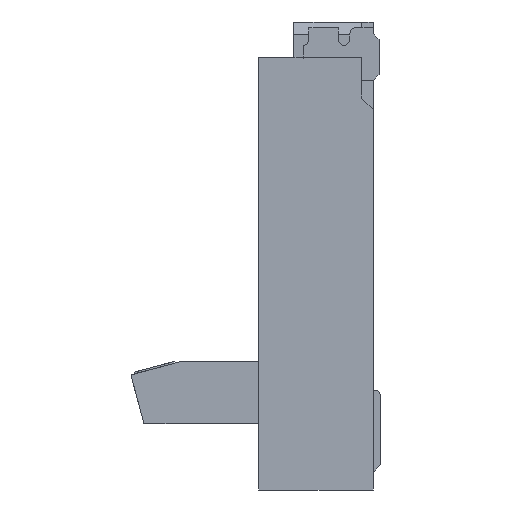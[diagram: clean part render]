
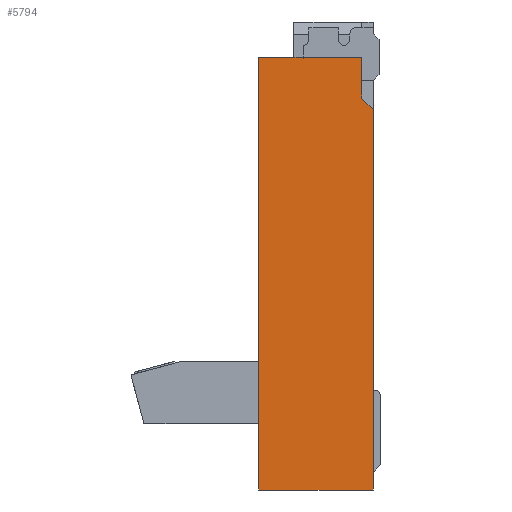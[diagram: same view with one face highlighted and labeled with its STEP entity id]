
A CAD part, left-side view. The second image highlights one B-rep face of the part: STEP entity #5794.
In plain terms, the highlighted planar face has unit normal (-1, 0, 0).
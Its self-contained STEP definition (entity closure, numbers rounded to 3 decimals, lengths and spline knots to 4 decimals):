
#1122 = EDGE_CURVE ( 'NONE', #14856, #43183, #22139, .T. ) ;
#4023 = VECTOR ( 'NONE', #25622, 1000. ) ;
#5794 = ADVANCED_FACE ( 'NONE', ( #37091 ), #7711, .T. ) ;
#7656 = DIRECTION ( 'NONE',  ( 0., 0., -1. ) ) ;
#7711 = PLANE ( 'NONE',  #53958 ) ;
#8023 = DIRECTION ( 'NONE',  ( 0., 0.707, 0.707 ) ) ;
#14752 = CARTESIAN_POINT ( 'NONE',  ( 0., 0.98, 0.3 ) ) ;
#14856 = VERTEX_POINT ( 'NONE', #39128 ) ;
#16910 = LINE ( 'NONE', #93867, #72752 ) ;
#18987 = VERTEX_POINT ( 'NONE', #29177 ) ;
#21086 = ORIENTED_EDGE ( 'NONE', *, *, #1122, .F. ) ;
#22139 = LINE ( 'NONE', #51270, #60867 ) ;
#22171 = VERTEX_POINT ( 'NONE', #65552 ) ;
#23322 = CARTESIAN_POINT ( 'NONE',  ( 0., 0., -3.7 ) ) ;
#25622 = DIRECTION ( 'NONE',  ( 0., -1., 0. ) ) ;
#25915 = EDGE_LOOP ( 'NONE', ( #21086, #45466, #56415, #57041, #64156, #32306 ) ) ;
#26055 = EDGE_CURVE ( 'NONE', #29749, #87139, #16910, .T. ) ;
#27577 = EDGE_CURVE ( 'NONE', #18987, #14856, #66725, .T. ) ;
#27638 = VECTOR ( 'NONE', #74277, 1000. ) ;
#29162 = VECTOR ( 'NONE', #8023, 1000. ) ;
#29177 = CARTESIAN_POINT ( 'NONE',  ( 0., 0.98, 0. ) ) ;
#29730 = DIRECTION ( 'NONE',  ( -1., 0., 0. ) ) ;
#29749 = VERTEX_POINT ( 'NONE', #37043 ) ;
#29830 = EDGE_CURVE ( 'NONE', #87139, #22171, #44683, .T. ) ;
#32306 = ORIENTED_EDGE ( 'NONE', *, *, #68026, .T. ) ;
#37043 = CARTESIAN_POINT ( 'NONE',  ( 0., 0., -0.45 ) ) ;
#37091 = FACE_OUTER_BOUND ( 'NONE', #25915, .T. ) ;
#39128 = CARTESIAN_POINT ( 'NONE',  ( 0., 0.1, 0. ) ) ;
#41940 = CARTESIAN_POINT ( 'NONE',  ( 0., 0.98, 0.3 ) ) ;
#43183 = VERTEX_POINT ( 'NONE', #82297 ) ;
#44683 = LINE ( 'NONE', #23322, #27638 ) ;
#45466 = ORIENTED_EDGE ( 'NONE', *, *, #27577, .F. ) ;
#47221 = EDGE_CURVE ( 'NONE', #22171, #18987, #63536, .T. ) ;
#50751 = CARTESIAN_POINT ( 'NONE',  ( 0., 0., -3.7 ) ) ;
#51270 = CARTESIAN_POINT ( 'NONE',  ( 0., 0.1, 0.623 ) ) ;
#53958 = AXIS2_PLACEMENT_3D ( 'NONE', #14752, #29730, #80710 ) ;
#56225 = DIRECTION ( 'NONE',  ( 0., 0., 1. ) ) ;
#56415 = ORIENTED_EDGE ( 'NONE', *, *, #47221, .F. ) ;
#57041 = ORIENTED_EDGE ( 'NONE', *, *, #29830, .F. ) ;
#60867 = VECTOR ( 'NONE', #7656, 1000. ) ;
#61240 = VECTOR ( 'NONE', #56225, 1000. ) ;
#63536 = LINE ( 'NONE', #41940, #61240 ) ;
#64156 = ORIENTED_EDGE ( 'NONE', *, *, #26055, .F. ) ;
#65552 = CARTESIAN_POINT ( 'NONE',  ( 0., 0.98, -3.7 ) ) ;
#65592 = LINE ( 'NONE', #73660, #29162 ) ;
#66725 = LINE ( 'NONE', #90988, #4023 ) ;
#68026 = EDGE_CURVE ( 'NONE', #29749, #43183, #65592, .T. ) ;
#71748 = DIRECTION ( 'NONE',  ( 0., 0., -1. ) ) ;
#72752 = VECTOR ( 'NONE', #71748, 1000. ) ;
#73660 = CARTESIAN_POINT ( 'NONE',  ( 0., 0.1, -0.35 ) ) ;
#74277 = DIRECTION ( 'NONE',  ( 0., 1., 0. ) ) ;
#80710 = DIRECTION ( 'NONE',  ( 0., 0., 1. ) ) ;
#82297 = CARTESIAN_POINT ( 'NONE',  ( 0., 0.1, -0.35 ) ) ;
#87139 = VERTEX_POINT ( 'NONE', #50751 ) ;
#90988 = CARTESIAN_POINT ( 'NONE',  ( 0., 0.98, 0. ) ) ;
#93867 = CARTESIAN_POINT ( 'NONE',  ( 0., 0., 0.3 ) ) ;
